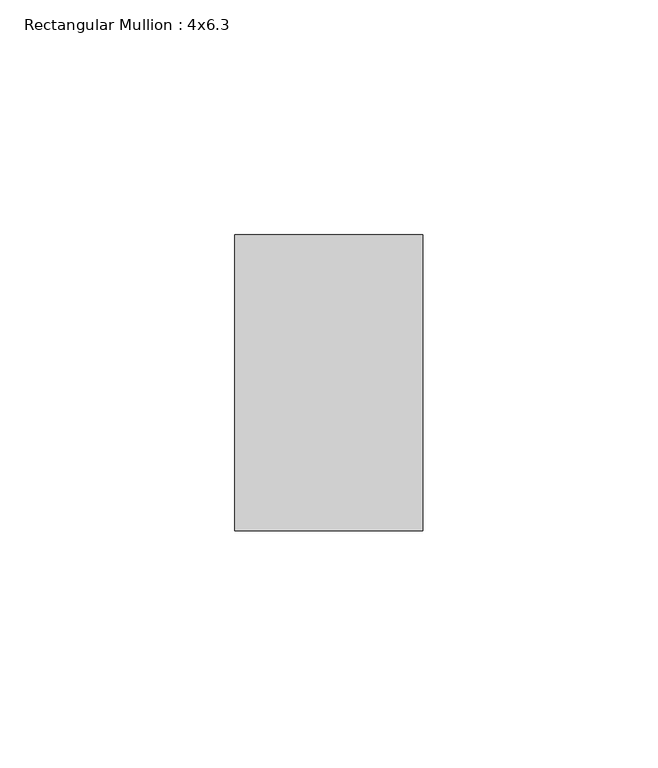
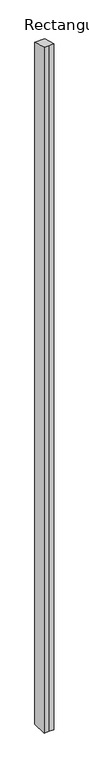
"""IFC4 building model written with IfcOpenShell, lengths in millimetres: member geometry, Rectangular Mullion : 4x6.3."""

from ifc_helpers import new_model, si_unit, origin, place, context, project, spatial, faceted_brep, source, transform, mapped, element, save


def rectangular_mullion_4x6_3_376f5848(model_context):
    return source(origin(), model_context, "Body", "Brep", [
        faceted_brep([(-20.0, 20.0, -2906.3195938), (-20.0, 83.0, -2906.3195938), (20.0, 83.0, -2906.3195938), (20.0, 20.0, -2906.3195938), (0.0, 20.0, -2906.3195938), (0.0, 20.0, -5.4283368), (-20.0, 20.0, -5.4283368), (20.0, 20.0, -5.4283368), (20.0, 83.0, -22.5275978), (-20.0, 83.0, -22.5275978)], [[[0, 1, 2, 3, 4]], [[5, 6, 0, 4]], [[7, 5, 4, 3]], [[8, 7, 3, 2]], [[9, 8, 2, 1]], [[6, 9, 1, 0]], [[6, 5, 7, 8, 9]]]),
    ])


if __name__ == "__main__":
    model = new_model("IFC4")
    model_context = context("Model", 3, world=origin())
    ifc_project = project(units=[si_unit("LENGTHUNIT", "METRE", prefix="MILLI")], contexts=[model_context])
    site = spatial("IfcSite", under=ifc_project)
    building = spatial("IfcBuilding", under=site)
    placement = place(None, origin())
    rectangular_mullion_4x6_3_shape = rectangular_mullion_4x6_3_376f5848(model_context)
    element("IfcMember", 1, ObjectType="Rectangular Mullion : 4x6.3", at=placement, inside=building, context=model_context, shape_type="MappedRepresentation", body=[
        mapped(rectangular_mullion_4x6_3_shape, transform((0.0, 0.0, 0.0), x_axis=(1.0, 0.0, 0.0), y_axis=(0.0, 1.0, 0.0), z_axis=(0.0, 0.0, 1.0))),
    ])
    save(model, "model.ifc")
